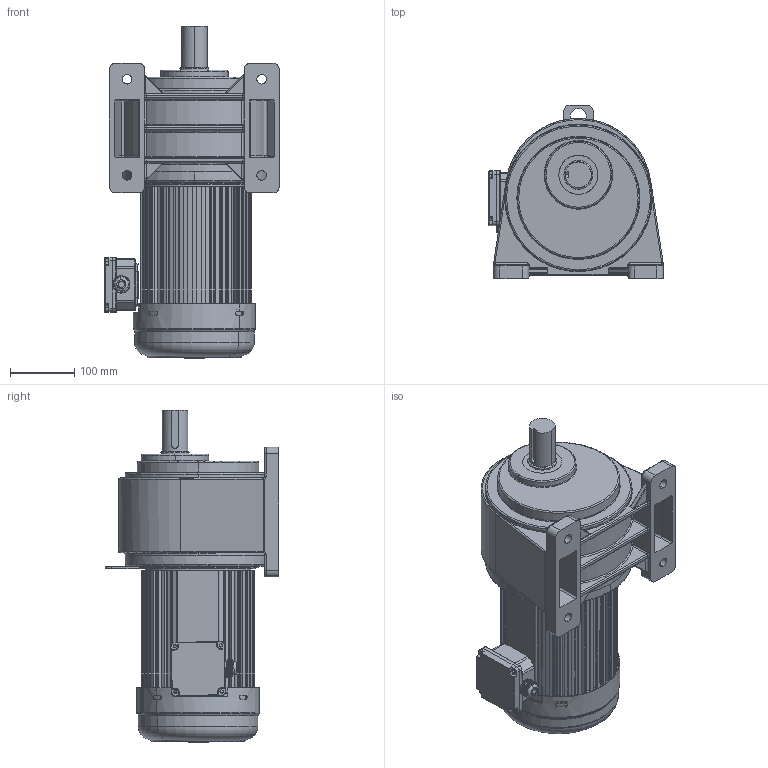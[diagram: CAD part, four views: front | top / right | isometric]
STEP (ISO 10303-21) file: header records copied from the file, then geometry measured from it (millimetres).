
FILE_DESCRIPTION (( 'STEP AP203' ), '1' );
FILE_NAME ('2200W饜5#拏宒.STEP', '2020-04-13T10:52:25', ( 'china' ), ( 'china' ), 'SwSTEP 2.0', 'SolidWorks 2019', '' );
FILE_SCHEMA (( 'CONFIG_CONTROL_DESIGN' ));
Length unit declared in the file: millimetre
Products named in the file (10): 蜊輛綴諉盄碟裔3; 怀堤粣; 2200W儂褲; 5-1500w2200wxianggai; xiangti-5w; 1500W綴傷裔; 2200W饜5#拏宒; 瑞欶; 蜊輛綴諉盄碟釱3; 諉芛
Assembly tree (9 placements, depth 2):
  2200W饜5#拏宒
    怀堤粣
    5-1500w2200wxianggai
    1500W綴傷裔
    瑞欶
    蜊輛綴諉盄碟釱3
    諉芛
    蜊輛綴諉盄碟裔3
    2200W儂褲
    xiangti-5w
Bounding box: 272.49 x 271 x 517.98 mm (x, y, z)
Volume: 3687730.1 mm3; surface area: 1296033 mm2
Topology: 9 solids, 20 shells, 3604 faces, 9505 edges, 5961 vertices
Faces by surface type: plane 1324, cylinder 1228, bspline 760, torus 169, cone 123
Entity records: 157777 total; most frequent: CARTESIAN_POINT 72032, ORIENTED_EDGE 18856, DIRECTION 16261, EDGE_CURVE 9428, VERTEX_POINT 5960, AXIS2_PLACEMENT_3D 5785, LINE 4691, VECTOR 4691
